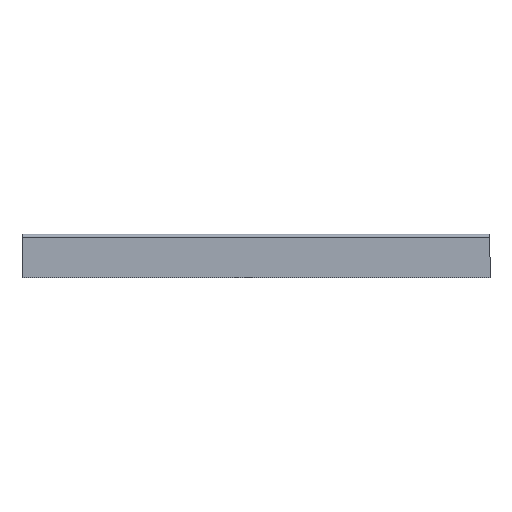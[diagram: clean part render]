
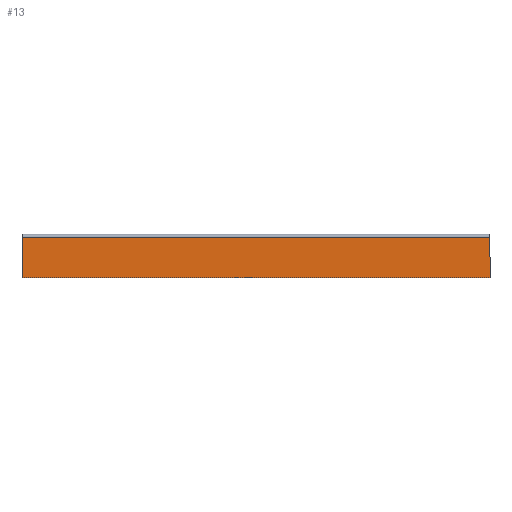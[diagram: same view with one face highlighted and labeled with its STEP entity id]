
A CAD part, left-side view. The second image highlights one B-rep face of the part: STEP entity #13.
In plain terms, the highlighted planar face has unit normal (-1, 0, 0).
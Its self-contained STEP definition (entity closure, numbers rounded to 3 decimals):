
#13 = ADVANCED_FACE ( 'NONE', ( #847 ), #475, .T. ) ;
#52 = VECTOR ( 'NONE', #623, 1000. ) ;
#62 = LINE ( 'NONE', #624, #52 ) ;
#116 = EDGE_CURVE ( 'NONE', #279, #340, #782, .T. ) ;
#132 = AXIS2_PLACEMENT_3D ( 'NONE', #458, #456, #457 ) ;
#182 = EDGE_CURVE ( 'NONE', #546, #531, #718, .T. ) ;
#183 = EDGE_CURVE ( 'NONE', #546, #279, #719, .T. ) ;
#239 = EDGE_CURVE ( 'NONE', #531, #340, #62, .T. ) ;
#279 = VERTEX_POINT ( 'NONE', #606 ) ;
#340 = VERTEX_POINT ( 'NONE', #515 ) ;
#344 = DIRECTION ( 'NONE',  ( 0., 0., 1. ) ) ;
#348 = DIRECTION ( 'NONE',  ( 0., -1., 0. ) ) ;
#357 = CARTESIAN_POINT ( 'NONE',  ( -100., 429., 10. ) ) ;
#378 = CARTESIAN_POINT ( 'NONE',  ( -100., 479., 0. ) ) ;
#409 = CARTESIAN_POINT ( 'NONE',  ( -100., 429., 0. ) ) ;
#417 = CARTESIAN_POINT ( 'NONE',  ( -100., 0., 0. ) ) ;
#456 = DIRECTION ( 'NONE',  ( -1., 0., 0. ) ) ;
#457 = DIRECTION ( 'NONE',  ( 0., 0., 1. ) ) ;
#458 = CARTESIAN_POINT ( 'NONE',  ( -100., 479., 0. ) ) ;
#475 = PLANE ( 'NONE',  #132 ) ;
#515 = CARTESIAN_POINT ( 'NONE',  ( -100., 0., 37. ) ) ;
#531 = VERTEX_POINT ( 'NONE', #417 ) ;
#546 = VERTEX_POINT ( 'NONE', #409 ) ;
#564 = DIRECTION ( 'NONE',  ( 0., -1., 0. ) ) ;
#577 = CARTESIAN_POINT ( 'NONE',  ( -100., 479., 37. ) ) ;
#606 = CARTESIAN_POINT ( 'NONE',  ( -100., 429., 37. ) ) ;
#623 = DIRECTION ( 'NONE',  ( 0., 0., 1. ) ) ;
#624 = CARTESIAN_POINT ( 'NONE',  ( -100., 0., 0. ) ) ;
#715 = VECTOR ( 'NONE', #344, 1000. ) ;
#718 = LINE ( 'NONE', #378, #732 ) ;
#719 = LINE ( 'NONE', #357, #715 ) ;
#732 = VECTOR ( 'NONE', #348, 1000. ) ;
#781 = VECTOR ( 'NONE', #564, 1000. ) ;
#782 = LINE ( 'NONE', #577, #781 ) ;
#847 = FACE_OUTER_BOUND ( 'NONE', #973, .T. ) ;
#934 = ORIENTED_EDGE ( 'NONE', *, *, #183, .F. ) ;
#948 = ORIENTED_EDGE ( 'NONE', *, *, #239, .T. ) ;
#969 = ORIENTED_EDGE ( 'NONE', *, *, #116, .F. ) ;
#973 = EDGE_LOOP ( 'NONE', ( #934, #981, #948, #969 ) ) ;
#981 = ORIENTED_EDGE ( 'NONE', *, *, #182, .T. ) ;
